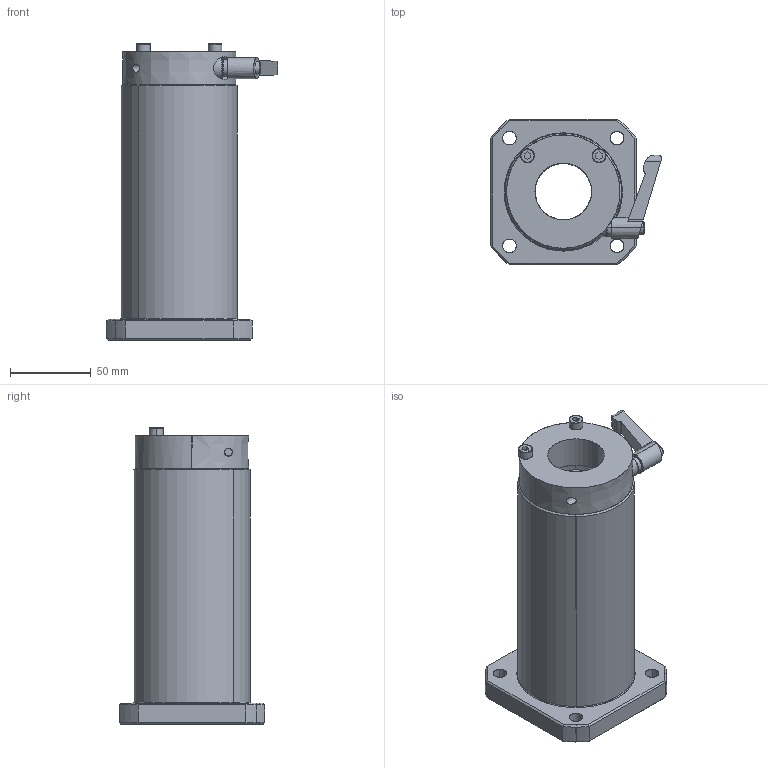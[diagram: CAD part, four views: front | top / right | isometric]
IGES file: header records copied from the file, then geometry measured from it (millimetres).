
Start section: SolidWorks IGES file using analytic representation for surfaces
Global section: file name: C:\Users\yamad\Desktop\IGES\LFWK35-C.IGS; native system: SolidWorks 2019; preprocessor: SolidWorks 2019; author: yamad; date: 230626.165320; units: millimetre
Bounding box: 105.7 x 90 x 183 mm (x, y, z)
Surface area: 96308.2 mm2 (no closed solid volume)
Topology: 0 solids, 0 shells, 222 faces, 5086 edges, 5086 vertices
Faces by surface type: bspline 118, revolution 104
